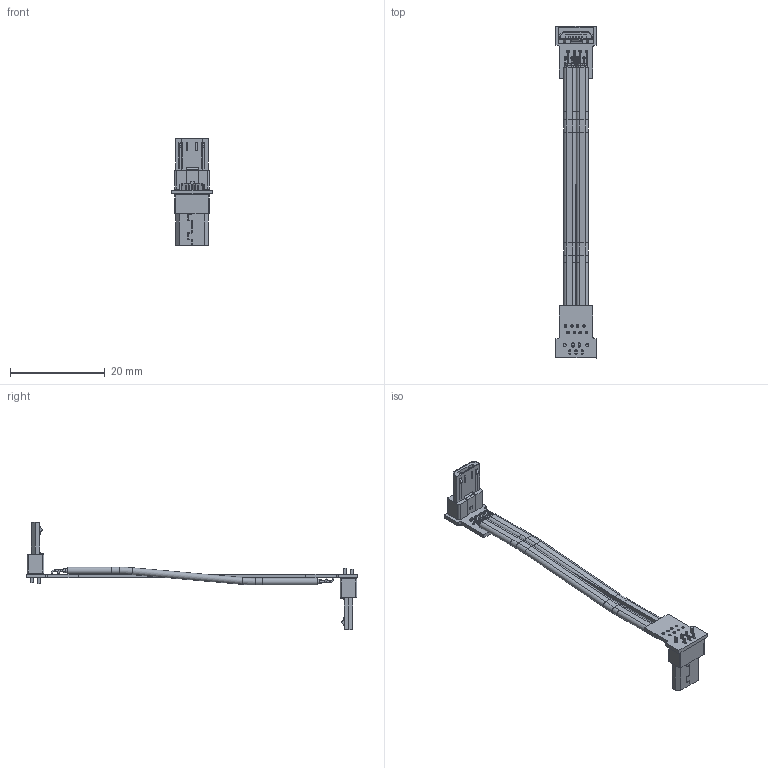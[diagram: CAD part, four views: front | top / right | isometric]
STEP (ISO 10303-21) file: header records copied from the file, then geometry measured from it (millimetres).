
FILE_DESCRIPTION(('Open CASCADE Model'),'2;1');
FILE_NAME('Open CASCADE Shape Model','2022-05-09T23:48:20',('Author'),( 'Open CASCADE'),'Open CASCADE STEP processor 6.8','Open CASCADE 6.8' ,'Unknown');
FILE_SCHEMA(('AUTOMOTIVE_DESIGN { 1 0 10303 214 1 1 1 1 }'));
Length unit declared in the file: millimetre
Products named in the file (8): PCB; Board; Open CASCADE STEP translator 6.8 4.1.1; gDesignator22_1; usb_2.0_20211221; gDesignator22; Free-Models; 8_pin_S_20220421
Assembly tree (8 placements, depth 3):
  PCB
    Board
      Open CASCADE STEP translator 6.8 4.1.1
    gDesignator22_1
      usb_2.0_20211221
    gDesignator22
      usb_2.0_20211221
    Free-Models
      8_pin_S_20220421
Bounding box: 8.61 x 69.93 x 22.56 mm (x, y, z)
Volume: 672 mm3; surface area: 3426.3 mm2
Topology: 55 solids, 55 shells, 850 faces, 2055 edges, 1329 vertices
Faces by surface type: plane 464, cylinder 334, torus 52
Full cylindrical faces by diameter (mm): 0.55 x16, 0.7 x4
Entity records: 22712 total; most frequent: DIRECTION 3520, CARTESIAN_POINT 3218, ORIENTED_EDGE 3108, EDGE_CURVE 1554, AXIS2_PLACEMENT_3D 1296, VERTEX_POINT 994, LINE 928, VECTOR 928
